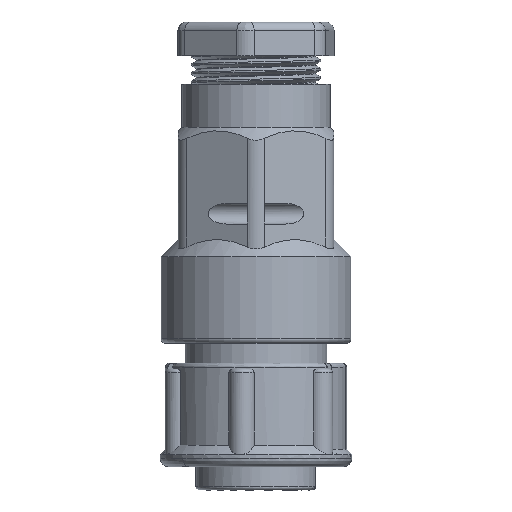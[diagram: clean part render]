
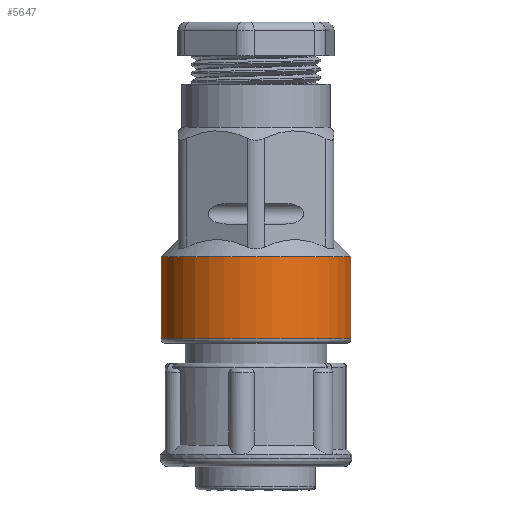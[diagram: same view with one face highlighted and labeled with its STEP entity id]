
A CAD part, front view. The second image highlights one B-rep face of the part: STEP entity #5647.
In plain terms, the highlighted cylindrical face has radius 11 mm (diameter 22 mm), a partial arc.
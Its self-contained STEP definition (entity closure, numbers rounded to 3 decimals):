
#1738 = ORIENTED_EDGE ( 'NONE', *, *, #15137, .F. ) ;
#1751 = ORIENTED_EDGE ( 'NONE', *, *, #32481, .F. ) ;
#1777 = ORIENTED_EDGE ( 'NONE', *, *, #32434, .T. ) ;
#1820 = ORIENTED_EDGE ( 'NONE', *, *, #15118, .T. ) ;
#2654 = CARTESIAN_POINT ( 'NONE',  ( -7.419, 11.277, 24.55 ) ) ;
#2655 = DIRECTION ( 'NONE',  ( 0., 0., 1. ) ) ;
#2665 = DIRECTION ( 'NONE',  ( 1., 0., 0. ) ) ;
#5647 = ADVANCED_FACE ( 'NONE', ( #34647 ), #34676, .T. ) ;
#7635 = AXIS2_PLACEMENT_3D ( 'NONE', #13398, #13396, #13404 ) ;
#7674 = AXIS2_PLACEMENT_3D ( 'NONE', #12715, #12717, #12718 ) ;
#10276 = CIRCLE ( 'NONE', #7635, 11. ) ;
#10283 = CIRCLE ( 'NONE', #7674, 11. ) ;
#12715 = CARTESIAN_POINT ( 'NONE',  ( -7.419, 11.277, 25.05 ) ) ;
#12717 = DIRECTION ( 'NONE',  ( 0., 0., -1. ) ) ;
#12718 = DIRECTION ( 'NONE',  ( -1., 0., 0. ) ) ;
#13396 = DIRECTION ( 'NONE',  ( 0., 0., -1. ) ) ;
#13398 = CARTESIAN_POINT ( 'NONE',  ( -7.419, 11.277, 34.55 ) ) ;
#13404 = DIRECTION ( 'NONE',  ( -1., 0., 0. ) ) ;
#15118 = EDGE_CURVE ( 'NONE', #34426, #34422, #10276, .T. ) ;
#15137 = EDGE_CURVE ( 'NONE', #34455, #34450, #10283, .T. ) ;
#23554 = LINE ( 'NONE', #26726, #23558 ) ;
#23558 = VECTOR ( 'NONE', #26717, 1000. ) ;
#23622 = VECTOR ( 'NONE', #26962, 1000. ) ;
#23630 = LINE ( 'NONE', #26989, #23622 ) ;
#26717 = DIRECTION ( 'NONE',  ( 0., 0., 1. ) ) ;
#26726 = CARTESIAN_POINT ( 'NONE',  ( 3.581, 11.277, 24.55 ) ) ;
#26962 = DIRECTION ( 'NONE',  ( 0., 0., 1. ) ) ;
#26989 = CARTESIAN_POINT ( 'NONE',  ( -18.419, 11.277, 24.55 ) ) ;
#29716 = CARTESIAN_POINT ( 'NONE',  ( 3.581, 11.277, 34.55 ) ) ;
#29720 = CARTESIAN_POINT ( 'NONE',  ( -18.419, 11.277, 25.05 ) ) ;
#29734 = CARTESIAN_POINT ( 'NONE',  ( 3.581, 11.277, 25.05 ) ) ;
#29735 = CARTESIAN_POINT ( 'NONE',  ( -18.419, 11.277, 34.55 ) ) ;
#31296 = AXIS2_PLACEMENT_3D ( 'NONE', #2654, #2655, #2665 ) ;
#32434 = EDGE_CURVE ( 'NONE', #34455, #34426, #23554, .T. ) ;
#32481 = EDGE_CURVE ( 'NONE', #34450, #34422, #23630, .T. ) ;
#34422 = VERTEX_POINT ( 'NONE', #29735 ) ;
#34426 = VERTEX_POINT ( 'NONE', #29716 ) ;
#34450 = VERTEX_POINT ( 'NONE', #29720 ) ;
#34455 = VERTEX_POINT ( 'NONE', #29734 ) ;
#34647 = FACE_OUTER_BOUND ( 'NONE', #35668, .T. ) ;
#34676 = CYLINDRICAL_SURFACE ( 'NONE', #31296, 11. ) ;
#35668 = EDGE_LOOP ( 'NONE', ( #1751, #1738, #1777, #1820 ) ) ;
